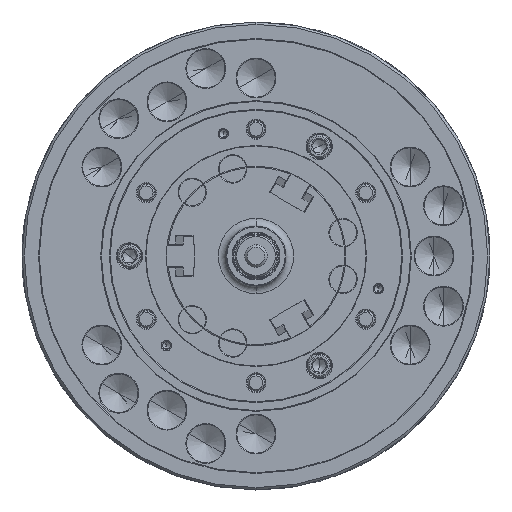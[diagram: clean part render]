
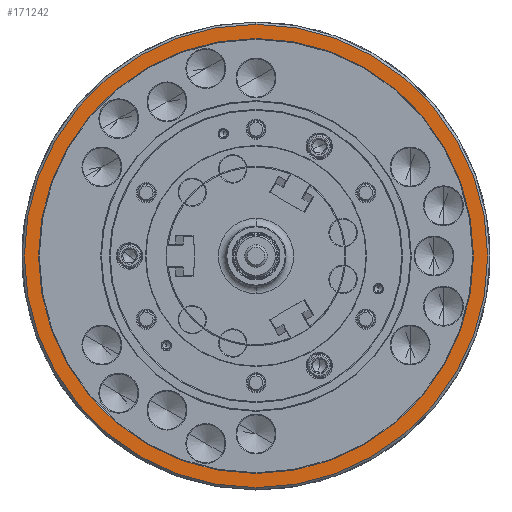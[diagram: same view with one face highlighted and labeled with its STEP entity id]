
A CAD part, left-side view. The second image highlights one B-rep face of the part: STEP entity #171242.
In plain terms, the highlighted planar face has unit normal (-1, 0, 0).
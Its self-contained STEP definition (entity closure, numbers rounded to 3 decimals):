
#3071 = DIRECTION ( 'NONE',  ( -1., 0., 0. ) ) ;
#13822 = EDGE_CURVE ( 'NONE', #184128, #113457, #140376, .T. ) ;
#28233 = PLANE ( 'NONE',  #185746 ) ;
#32118 = DIRECTION ( 'NONE',  ( 0., 0., 1. ) ) ;
#34327 = CARTESIAN_POINT ( 'NONE',  ( -125., 0., -302. ) ) ;
#41988 = CARTESIAN_POINT ( 'NONE',  ( -125., 302., 0. ) ) ;
#42083 = AXIS2_PLACEMENT_3D ( 'NONE', #97262, #217069, #115476 ) ;
#43128 = FACE_BOUND ( 'NONE', #76204, .T. ) ;
#43900 = ORIENTED_EDGE ( 'NONE', *, *, #191614, .T. ) ;
#50856 = DIRECTION ( 'NONE',  ( -1., 0., 0. ) ) ;
#64138 = AXIS2_PLACEMENT_3D ( 'NONE', #224132, #50856, #172841 ) ;
#64999 = EDGE_LOOP ( 'NONE', ( #43900, #91160 ) ) ;
#69714 = DIRECTION ( 'NONE',  ( -1., 0., 0. ) ) ;
#76204 = EDGE_LOOP ( 'NONE', ( #148817, #162458 ) ) ;
#89669 = DIRECTION ( 'NONE',  ( 0., 0., 1. ) ) ;
#91160 = ORIENTED_EDGE ( 'NONE', *, *, #132210, .T. ) ;
#93243 = FACE_OUTER_BOUND ( 'NONE', #64999, .T. ) ;
#97262 = CARTESIAN_POINT ( 'NONE',  ( -125., 0., 0. ) ) ;
#107718 = CIRCLE ( 'NONE', #64138, 283.5 ) ;
#108267 = CARTESIAN_POINT ( 'NONE',  ( -125., 0., -283.5 ) ) ;
#113457 = VERTEX_POINT ( 'NONE', #196934 ) ;
#113739 = DIRECTION ( 'NONE',  ( 1., 0., 0. ) ) ;
#115476 = DIRECTION ( 'NONE',  ( 0., 0., 1. ) ) ;
#116737 = CIRCLE ( 'NONE', #131411, 302. ) ;
#124372 = CARTESIAN_POINT ( 'NONE',  ( -125., 0., 0. ) ) ;
#126266 = AXIS2_PLACEMENT_3D ( 'NONE', #157055, #3071, #89669 ) ;
#129857 = CIRCLE ( 'NONE', #126266, 302. ) ;
#131411 = AXIS2_PLACEMENT_3D ( 'NONE', #124372, #69714, #32118 ) ;
#132210 = EDGE_CURVE ( 'NONE', #153194, #181555, #129857, .T. ) ;
#140376 = CIRCLE ( 'NONE', #42083, 283.5 ) ;
#148817 = ORIENTED_EDGE ( 'NONE', *, *, #200364, .F. ) ;
#151162 = CARTESIAN_POINT ( 'NONE',  ( -125., 0., 302. ) ) ;
#153194 = VERTEX_POINT ( 'NONE', #151162 ) ;
#157055 = CARTESIAN_POINT ( 'NONE',  ( -125., 0., 0. ) ) ;
#162458 = ORIENTED_EDGE ( 'NONE', *, *, #13822, .F. ) ;
#171242 = ADVANCED_FACE ( 'NONE', ( #43128, #93243 ), #28233, .F. ) ;
#172841 = DIRECTION ( 'NONE',  ( 0., 0., 1. ) ) ;
#181555 = VERTEX_POINT ( 'NONE', #34327 ) ;
#184128 = VERTEX_POINT ( 'NONE', #108267 ) ;
#185746 = AXIS2_PLACEMENT_3D ( 'NONE', #41988, #113739, #197096 ) ;
#191614 = EDGE_CURVE ( 'NONE', #181555, #153194, #116737, .T. ) ;
#196934 = CARTESIAN_POINT ( 'NONE',  ( -125., 0., 283.5 ) ) ;
#197096 = DIRECTION ( 'NONE',  ( 0., 0., -1. ) ) ;
#200364 = EDGE_CURVE ( 'NONE', #113457, #184128, #107718, .T. ) ;
#217069 = DIRECTION ( 'NONE',  ( -1., 0., 0. ) ) ;
#224132 = CARTESIAN_POINT ( 'NONE',  ( -125., 0., 0. ) ) ;
